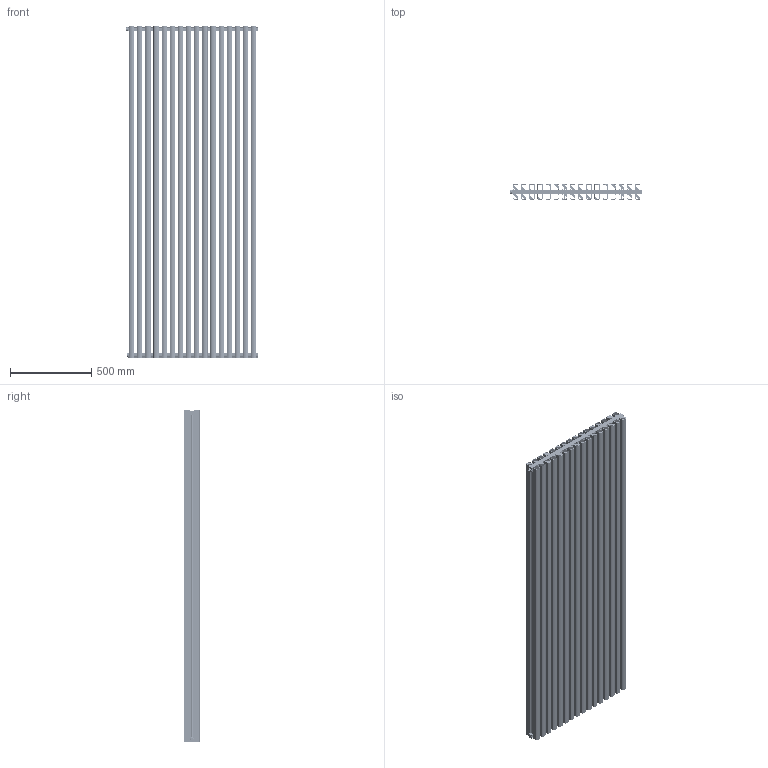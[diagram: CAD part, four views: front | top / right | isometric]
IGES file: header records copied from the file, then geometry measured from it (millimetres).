
Start section: SolidWorks IGES file using analytic representation for surfaces
Global section: file name: S:\RicercaSviluppo\01_DISEGNI\2_DISEGNI\02_ELEMENTI\39_TONALE\39_99_RICHIESTE CLIENTI\39_99_DRL\22-07-24\TONALE 2000_16.IGS; native system: SolidWorks 2024; preprocessor: SolidWorks 2024; author: massimo; date: 240722.112749; units: millimetre
Bounding box: 816.3 x 95 x 2039.3 mm (x, y, z)
Surface area: 23531170.8 mm2 (no closed solid volume)
Topology: 0 solids, 0 shells, 9296 faces, 112895 edges, 112703 vertices
Faces by surface type: revolution 4912, bspline 4384
